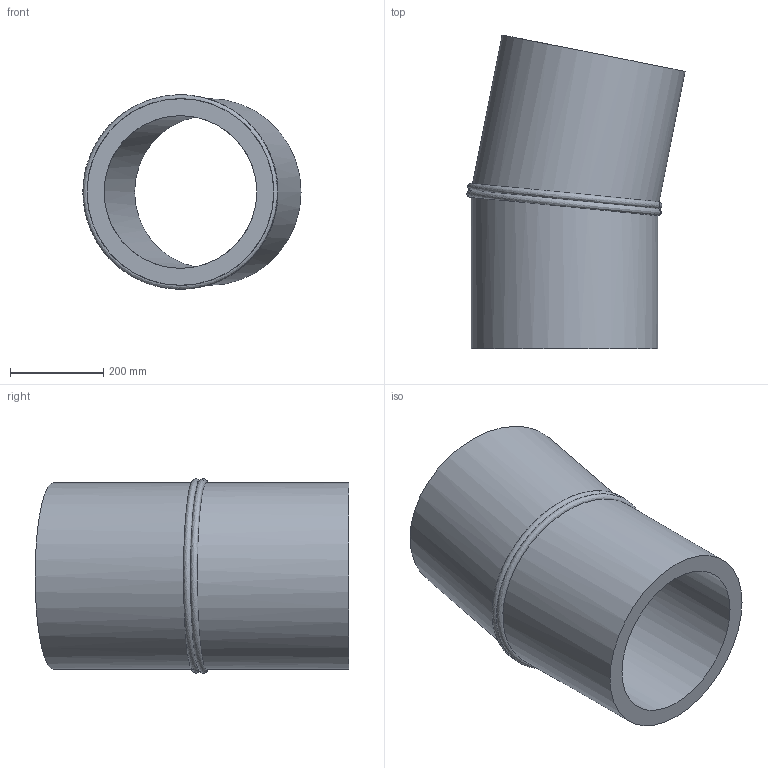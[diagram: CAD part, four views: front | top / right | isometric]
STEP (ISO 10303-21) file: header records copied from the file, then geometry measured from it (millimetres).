
FILE_DESCRIPTION(/* description */ ('Unknown'),/* implementation_level */ '2;1');
FILE_NAME(/* name */ 'Curva 11.25° a settore DE400 SDR11',/* time_stamp */ '2022-07-22T14:45:40+02:00',/* author */ ('Unknown'),/* organization */ ('Unknown'),/* preprocessor_version */ 'ST-DEVELOPER v18.102',/* originating_system */ 'Solid Edge',/* authorisation */ 'Unknown');
FILE_SCHEMA (('AUTOMOTIVE_DESIGN {1 0 10303 214 3 1 1}'));
Length unit declared in the file: millimetre
Products named in the file (2): Curva 11.25° a settore DE400 SDR11; Tubo x Gomito 11.25° DE400 SDR11
Assembly tree (2 placements, depth 2):
  Curva 11.25° a settore DE400 SDR11
    Tubo x Gomito 11.25° DE400 SDR11  x2
Bounding box: 467.47 x 672.27 x 416.46 mm (x, y, z)
Volume: 26773973.8 mm3; surface area: 1654627.1 mm2
Topology: 2 solids, 2 shells, 10 faces, 20 edges, 14 vertices
Faces by surface type: cylinder 4, plane 4, bspline 2
Full cylindrical faces by diameter (mm): 327.4 x2, 400 x2
Entity records: 767 total; most frequent: CARTESIAN_POINT 630, DIRECTION 20, ORIENTED_EDGE 10, EDGE_LOOP 10, FACE_BOUND 10, AXIS2_PLACEMENT_3D 10, EDGE_CURVE 5, VERTEX_POINT 5
